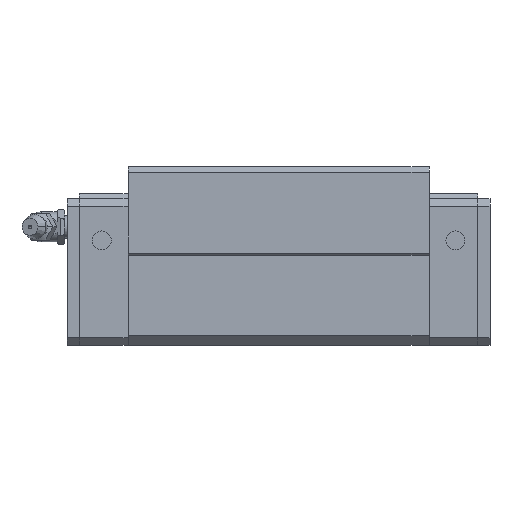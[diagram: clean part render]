
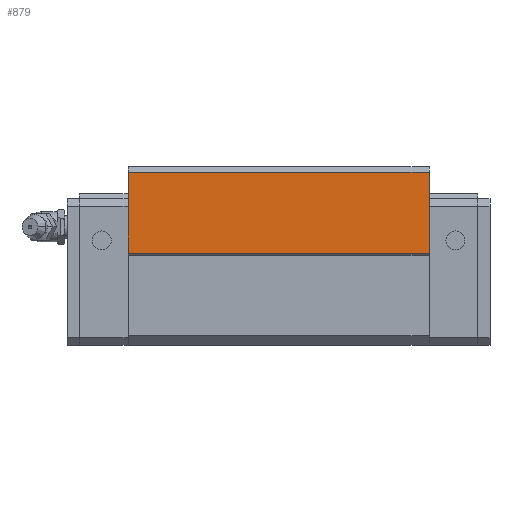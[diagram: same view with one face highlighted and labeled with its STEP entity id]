
A CAD part, front view. The second image highlights one B-rep face of the part: STEP entity #879.
In plain terms, the highlighted planar face has unit normal (0, -1, 0).
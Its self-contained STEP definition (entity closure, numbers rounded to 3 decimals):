
#818=CARTESIAN_POINT('POINT50',(96.2,-35.,
   24.5));
#819=VERTEX_POINT('VERTEX50',#818);
#826=CARTESIAN_POINT('POINT51',(16.2,-35.,
   24.5));
#827=VERTEX_POINT('VERTEX51',#826);
#828=CARTESIAN_POINT('POS85',(16.2,-35.,24.5
   ));
#829=DIRECTION('DIR126',(1.,0.,0.));
#830=VECTOR('VEC44',#829,1.);
#831=LINE('STRAIGHT44',#828,#830);
#832=EDGE_CURVE('EDGE82',#827,#819,#831,.T.);
#849=CARTESIAN_POINT('POINT52',(96.2,-35.,
   46.));
#850=VERTEX_POINT('VERTEX52',#849);
#851=CARTESIAN_POINT('POS88',(96.2,-35.,46.)
   );
#852=DIRECTION('DIR130',(0.,0.,1.));
#853=VECTOR('VEC46',#852,1.);
#854=LINE('STRAIGHT46',#851,#853);
#855=EDGE_CURVE('EDGE84',#819,#850,#854,.T.);
#856=ORIENTED_EDGE('COEDGE151',*,*,#855,.T.);
#857=CARTESIAN_POINT('POINT53',(16.2,-35.,
   46.));
#858=VERTEX_POINT('VERTEX53',#857);
#859=CARTESIAN_POINT('POS89',(16.2,-35.,46.)
   );
#860=DIRECTION('DIR131',(1.,0.,0.));
#861=VECTOR('VEC47',#860,1.);
#862=LINE('STRAIGHT47',#859,#861);
#863=EDGE_CURVE('EDGE85',#858,#850,#862,.T.);
#864=ORIENTED_EDGE('COEDGE152',*,*,#863,.F.);
#865=CARTESIAN_POINT('POS90',(16.2,-35.,46.)
   );
#866=DIRECTION('DIR132',(0.,0.,-1.));
#867=VECTOR('VEC48',#866,1.);
#868=LINE('STRAIGHT48',#865,#867);
#869=EDGE_CURVE('EDGE86',#858,#827,#868,.T.);
#870=ORIENTED_EDGE('COEDGE153',*,*,#869,.T.);
#871=ORIENTED_EDGE('COEDGE154',*,*,#832,.T.);
#872=EDGE_LOOP('NONE',(#856,#864,#870,#871));
#873=FACE_BOUND('LOOP1',#872,.T.);
#874=CARTESIAN_POINT('POS91',(16.2,-35.,24.5
   ));
#875=DIRECTION('DIR133',(0.,-1.,0.));
#876=DIRECTION('DIR134',(1.,0.,0.));
#877=AXIS2_PLACEMENT_3D('AXIS43',#874,#875,#876);
#878=PLANE('PLANE8',#877);
#879=ADVANCED_FACE('FACE40',(#873),#878,.T.);
